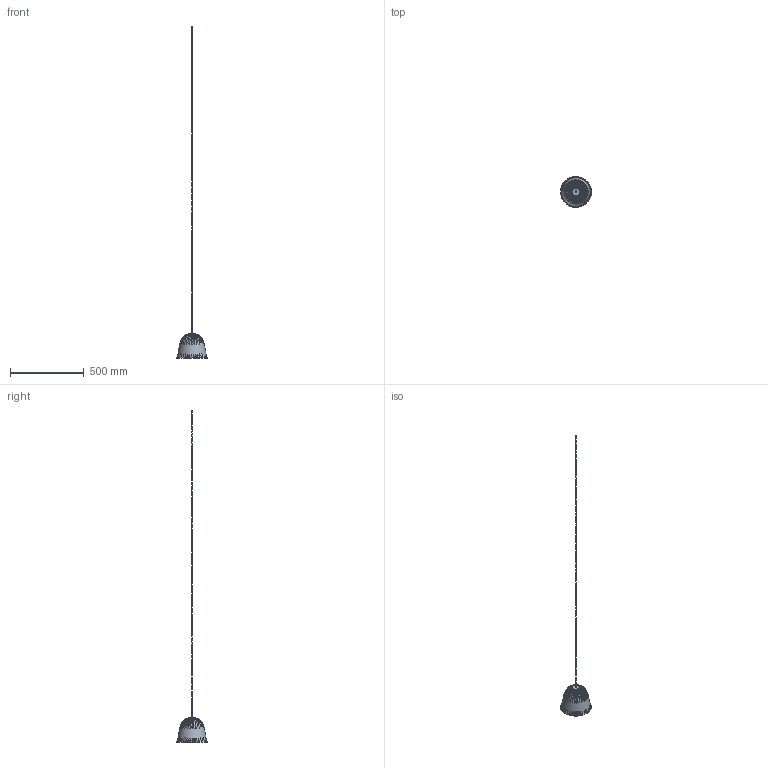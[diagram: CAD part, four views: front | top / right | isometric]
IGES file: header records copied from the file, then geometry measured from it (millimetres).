
Global section: file name: D:\NORR11\Norr 11\Products - Lamps\Cloche Lamps\1. Cloche Pendant Lamps\Cloche One\Cloche One.igs; native system: Rhinoceros ( Oct 24 2012 ); preprocessor: Trout Lake IGES 012 Oct 24 2012; date: 150404.145716; units: millimetre
Bounding box: 209.88 x 209.78 x 2250.02 mm (x, y, z)
Surface area: 235383.7 mm2 (no closed solid volume)
Topology: 0 solids, 0 shells, 118 faces, 740 edges, 859 vertices
Faces by surface type: bspline 118
